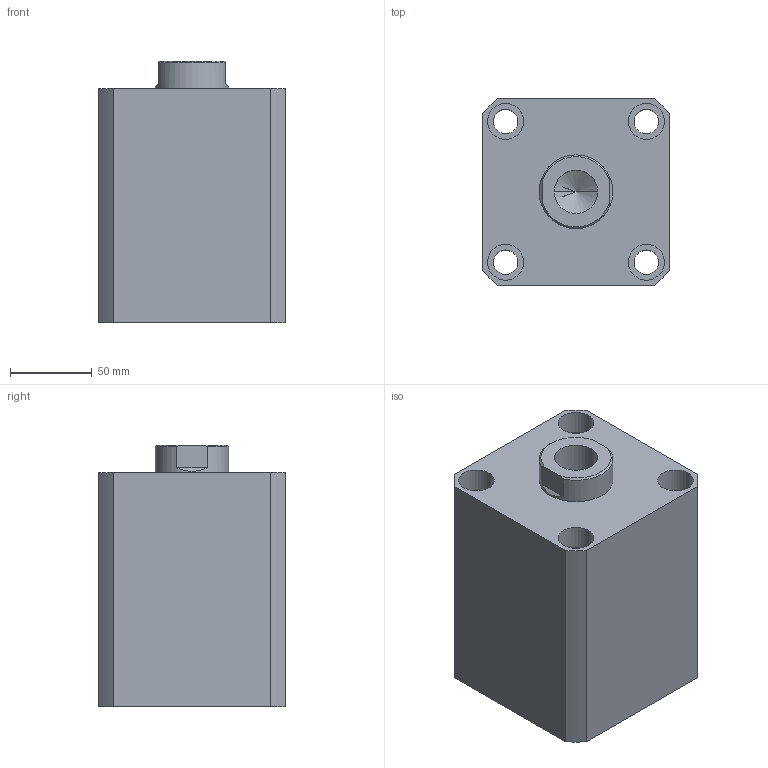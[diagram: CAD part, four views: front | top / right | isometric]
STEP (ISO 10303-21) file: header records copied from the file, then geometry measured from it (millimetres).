
FILE_DESCRIPTION (( 'STEP AP203' ), '1' );
FILE_NAME ('HTB-SDMB80-65N.STEP', '2019-10-09T06:08:58', ( '微软用户' ), ( '微软中国' ), 'SwSTEP 2.0', 'SolidWorks 2012', '' );
FILE_SCHEMA (( 'CONFIG_CONTROL_DESIGN' ));
Length unit declared in the file: millimetre
Products named in the file (3): HTB-SDMB80-65掛极; HTB-SDMB80-65N活塞杆; HTB-SDMB80-65N
Assembly tree (2 placements, depth 2):
  HTB-SDMB80-65N
    HTB-SDMB80-65掛极
    HTB-SDMB80-65N活塞杆
Bounding box: 114 x 114 x 160 mm (x, y, z)
Volume: 1490170.9 mm3; surface area: 189146.3 mm2
Topology: 2 solids, 2 shells, 137 faces, 331 edges, 217 vertices
Faces by surface type: plane 65, cylinder 46, bspline 16, torus 6, cone 4
Entity records: 5070 total; most frequent: CARTESIAN_POINT 1576, ORIENTED_EDGE 658, DIRECTION 647, EDGE_CURVE 329, AXIS2_PLACEMENT_3D 232, VERTEX_POINT 217, LINE 183, VECTOR 183
